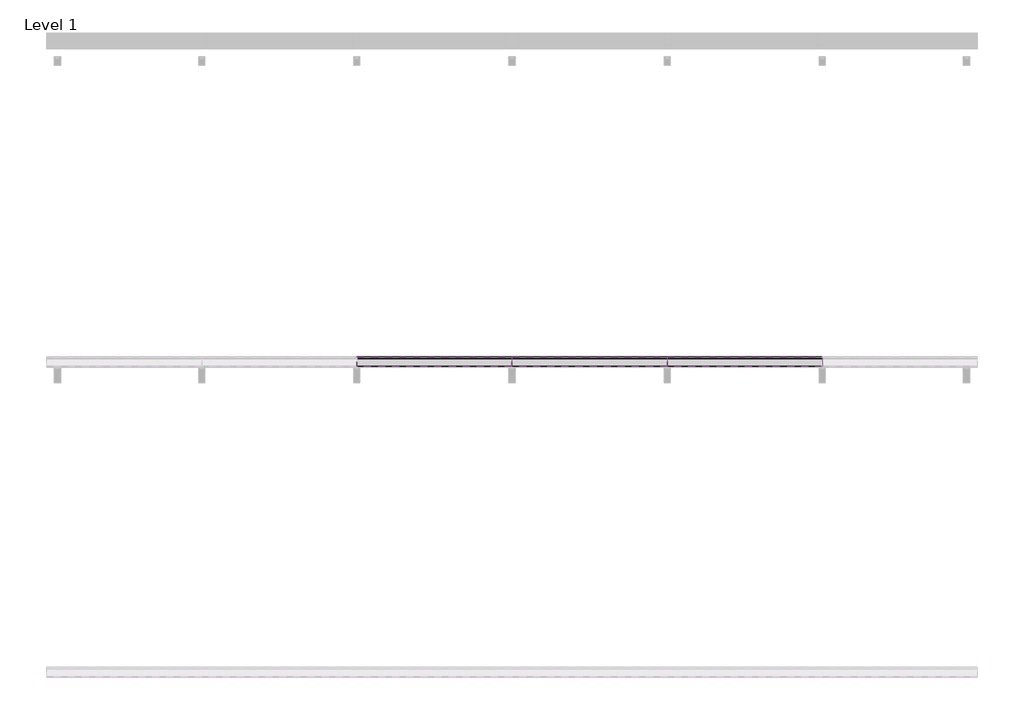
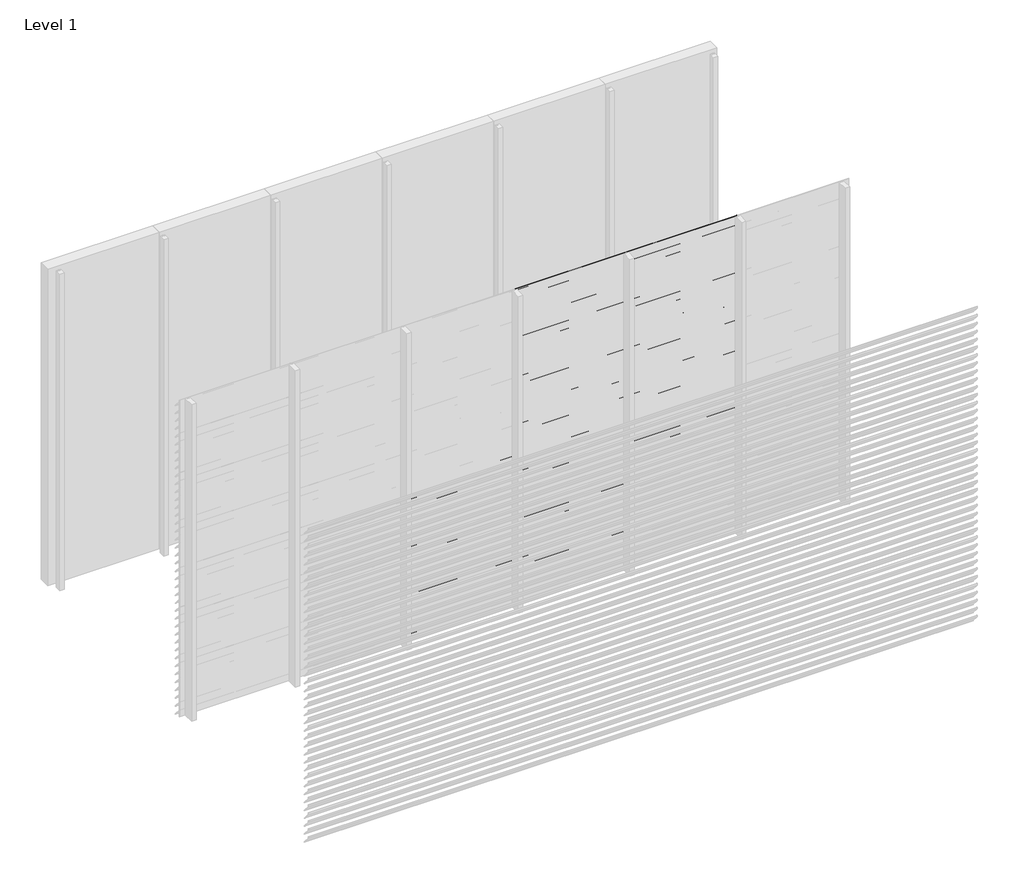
# One storey, part 15 of 35: 86 proxies.
"""IFC4 building model written with IfcOpenShell, lengths in millimetres."""

import ifcopenshell
import ifcopenshell.guid

model = None  # the IFC model being written
_history = None  # IfcOwnerHistory: only IFC2X3 demands one
_inside = {}  # id of a spatial element -> (the spatial element, [elements in it])
_under = {}  # id of a project, library or spatial element -> (it, [spatial elements below it])
_declared = {}  # id of a project -> (the project, [libraries it declares])
_typed = {}  # id of a type object -> (the type object, [elements of that type])
_made_of = {}  # id of a material, layer set ... -> (it, [elements and type objects made of it])


def new_model(schema):
    """Start an empty IFC model of exactly this schema.

    Asked for "IFC4X3", IfcOpenShell would pick the latest addendum, in which some entities
    have other attributes; the version numbers below select the first issue.
    IFC2X3 requires an IfcOwnerHistory on every rooted entity: one is made here for all.
    """
    global model, _history
    if schema == "IFC4X3":
        model = ifcopenshell.file(schema_version=(4, 3, 0, 0))
    else:
        model = ifcopenshell.file(schema=schema)
    _inside.clear()
    _under.clear()
    _declared.clear()
    _typed.clear()
    _made_of.clear()
    _history = None
    if model.schema == "IFC2X3":
        org = make("IfcOrganization", Name="unknown")
        user = make(
            "IfcPersonAndOrganization",
            ThePerson=make("IfcPerson", FamilyName="unknown"),
            TheOrganization=org,
        )
        app = make(
            "IfcApplication",
            ApplicationDeveloper=org,
            Version="unknown",
            ApplicationFullName="unknown",
            ApplicationIdentifier="unknown",
        )
        _history = make(
            "IfcOwnerHistory",
            OwningUser=user,
            OwningApplication=app,
            ChangeAction="ADDED",
            CreationDate=0,
        )
    return model


def make(cls, **values):
    """One entity of the class cls with the attributes given. An attribute that is None is left unset."""
    return model.create_entity(
        cls, **{name: value for name, value in values.items() if value is not None}
    )


def rooted(cls, **values):
    """An entity with a GlobalId (a new one), such as an element, a storey or a relation."""
    return make(cls, GlobalId=ifcopenshell.guid.new(), OwnerHistory=_history, **values)


def si_unit(unit_type, name, prefix=None):
    """IfcSIUnit, for example si_unit("LENGTHUNIT", "METRE", prefix="MILLI")."""
    return make("IfcSIUnit", UnitType=unit_type, Prefix=prefix, Name=name)


def assignment(units):
    """IfcUnitAssignment: the units of a project."""
    return None if units is None else make("IfcUnitAssignment", Units=units)


def point(xyz):
    """IfcCartesianPoint."""
    return None if xyz is None else make("IfcCartesianPoint", Coordinates=xyz)


def direction(xyz):
    """IfcDirection."""
    return None if xyz is None else make("IfcDirection", DirectionRatios=xyz)


def frame(location, z_axis=None, x_axis=None):
    """IfcAxis2Placement3D, a coordinate frame: its origin and axes. An axis left out is left unset."""
    return make(
        "IfcAxis2Placement3D",
        Location=point(location),
        Axis=direction(z_axis),
        RefDirection=direction(x_axis),
    )


def origin():
    """The frame at (0, 0, 0) with its axes left unset."""
    return frame((0.0, 0.0, 0.0))


def place(relative_to, where):
    """IfcLocalPlacement: puts the frame where relative to a parent placement (None: the world)."""
    return make(
        "IfcLocalPlacement", PlacementRelTo=relative_to, RelativePlacement=where
    )


def context(
    kind, dimensions, precision=None, world=None, true_north=None, identifier=None
):
    """IfcGeometricRepresentationContext, for example the 3D "Model" context."""
    return make(
        "IfcGeometricRepresentationContext",
        ContextIdentifier=identifier,
        ContextType=kind,
        CoordinateSpaceDimension=dimensions,
        Precision=precision,
        WorldCoordinateSystem=world,
        TrueNorth=true_north,
    )


def project(units=None, contexts=None):
    """IfcProject with its units and contexts."""
    return rooted(
        "IfcProject",
        Name="project",
        RepresentationContexts=contexts,
        UnitsInContext=assignment(units),
    )


def spatial(cls, under=None, at=None, **own):
    """A site, building, storey or space (cls), placed at a placement, below another one or the project."""
    s = rooted(cls, ObjectPlacement=at, **own)
    if under is not None:
        _under.setdefault(under.id(), (under, []))[1].append(s)
    return s


def polyline(points):
    """IfcPolyline through the points."""
    return make("IfcPolyline", Points=[point(p) for p in points])


def outline(outer, holes=None, kind="AREA"):
    """IfcArbitraryClosedProfileDef: a profile drawn as a closed curve; with holes, ...WithVoids."""
    if holes is None:
        return make("IfcArbitraryClosedProfileDef", ProfileType=kind, OuterCurve=outer)
    return make(
        "IfcArbitraryProfileDefWithVoids",
        ProfileType=kind,
        OuterCurve=outer,
        InnerCurves=holes,
    )


def extrude(swept, where, along, depth):
    """IfcExtrudedAreaSolid: the profile swept, set in the frame where, extruded along a direction by depth."""
    return make(
        "IfcExtrudedAreaSolid",
        SweptArea=swept,
        Position=where,
        ExtrudedDirection=direction(along),
        Depth=depth,
    )


def shape(context_of_items, identifier, shape_type, items):
    """IfcShapeRepresentation: the items that make up one representation, for example the "Body"."""
    return make(
        "IfcShapeRepresentation",
        ContextOfItems=context_of_items,
        RepresentationIdentifier=identifier,
        RepresentationType=shape_type,
        Items=items,
    )


def made_of(thing, what):
    """Note that an element or type object is made of a material, layer set ...; save() writes the relation."""
    if what is not None:
        _made_of.setdefault(what.id(), (what, []))[1].append(thing)
    return thing


def element(
    cls,
    number,
    at=None,
    inside=None,
    cuts=None,
    type_object=None,
    material=None,
    context=None,
    identifier="Body",
    shape_type=None,
    held_by="IfcProductDefinitionShape",
    body=None,
    shapes=None,
    **own,
):
    """One element of the class cls, such as IfcWall. Its Tag is "e" and its number.

    at: its placement. inside: the storey or other place that contains it. cuts: it is an
    opening in that element (IfcRelVoidsElement). A single representation is given by context,
    identifier, shape_type and body (its items); several are given by shapes. held_by: the class
    of the entity that holds the representations. save() writes the other relations.
    """
    e = rooted(cls, Tag="e%d" % number, ObjectPlacement=at, **own)
    if body is not None:
        shapes = [shape(context, identifier, shape_type, body)]
    if shapes is not None:
        e.Representation = make(held_by, Representations=shapes)
    if inside is not None:
        _inside.setdefault(inside.id(), (inside, []))[1].append(e)
    if cuts is not None:
        rooted(
            "IfcRelVoidsElement", RelatingBuildingElement=cuts, RelatedOpeningElement=e
        )
    if type_object is not None:
        _typed.setdefault(type_object.id(), (type_object, []))[1].append(e)
    return made_of(e, material)


def aggregate(whole, parts):
    """IfcRelAggregates: a whole, such as a stair, and the parts it consists of."""
    return rooted("IfcRelAggregates", RelatingObject=whole, RelatedObjects=parts)


def save(model, path):
    """Write the relations noted so far, then the file.

    IfcRelAggregates (storeys below a building ...), IfcRelContainedInSpatialStructure (elements
    in a storey), IfcRelDefinesByType, IfcRelAssociatesMaterial and IfcRelDeclares: one each for
    every whole, place, type object, material and project.
    """
    for whole, parts in _under.values():
        aggregate(whole, parts)
    for where, things in _inside.values():
        rooted(
            "IfcRelContainedInSpatialStructure",
            RelatedElements=things,
            RelatingStructure=where,
        )
    for kind, things in _typed.values():
        rooted("IfcRelDefinesByType", RelatedObjects=things, RelatingType=kind)
    for what, things in _made_of.values():
        rooted("IfcRelAssociatesMaterial", RelatedObjects=things, RelatingMaterial=what)
    for by, libraries in _declared.values():
        rooted("IfcRelDeclares", RelatingContext=by, RelatedDefinitions=libraries)
    model.write(path)


model = new_model("IFC4")

# Units and contexts
model_context = context("Model", 3, world=origin())
ifc_project = project(units=[si_unit("LENGTHUNIT", "METRE", prefix="MILLI")], contexts=[model_context])

# Site, building, storey
site = spatial("IfcSite", under=ifc_project)
building = spatial("IfcBuilding", under=site)
storey = spatial("IfcBuildingStorey", under=building, Name="Level 1", Elevation=0.0)

# Proxies
placement = place(None, origin())
element("IfcBuildingElementProxy", 1, Name="Wall Sweeps", at=placement, inside=storey, context=model_context, shape_type="SweptSolid", body=[
    extrude(outline(polyline([(-35996.5, 1425.0), (-35996.5, 1410.5463701), (-35934.5, 1338.9330051), (-35934.5, 1335.4), (-35936.0, 1335.4), (-35936.0, 1338.3738975), (-35998.0, 1409.9872626), (-35998.0, 1425.0), (-35996.5, 1425.0)])), frame((2000.0, 0.0, 0.0), z_axis=(1.0, 0.0, 0.0), x_axis=(0.0, 1.0, 0.0)), (0.0, 0.0, 1.0), 1000.0),
])
element("IfcBuildingElementProxy", 2, Name="Wall Sweeps", at=placement, inside=storey, context=model_context, shape_type="SweptSolid", body=[
    extrude(outline(polyline([(-35996.5, 1350.0), (-35996.5, 1335.5463701), (-35934.5, 1263.9330051), (-35934.5, 1260.4), (-35936.0, 1260.4), (-35936.0, 1263.3738975), (-35998.0, 1334.9872626), (-35998.0, 1350.0), (-35996.5, 1350.0)])), frame((2000.0, 0.0, 0.0), z_axis=(1.0, 0.0, 0.0), x_axis=(0.0, 1.0, 0.0)), (0.0, 0.0, 1.0), 1000.0),
])
element("IfcBuildingElementProxy", 3, Name="Wall Sweeps", at=placement, inside=storey, context=model_context, shape_type="SweptSolid", body=[
    extrude(outline(polyline([(-35996.5, 1275.0), (-35996.5, 1260.5463701), (-35934.5, 1188.9330051), (-35934.5, 1185.4), (-35936.0, 1185.4), (-35936.0, 1188.3738975), (-35998.0, 1259.9872626), (-35998.0, 1275.0), (-35996.5, 1275.0)])), frame((2000.0, 0.0, 0.0), z_axis=(1.0, 0.0, 0.0), x_axis=(0.0, 1.0, 0.0)), (0.0, 0.0, 1.0), 1000.0),
])
element("IfcBuildingElementProxy", 4, Name="Wall Sweeps", at=placement, inside=storey, context=model_context, shape_type="SweptSolid", body=[
    extrude(outline(polyline([(-35996.5, 1200.0), (-35996.5, 1185.5463701), (-35934.5, 1113.9330051), (-35934.5, 1110.4), (-35936.0, 1110.4), (-35936.0, 1113.3738975), (-35998.0, 1184.9872626), (-35998.0, 1200.0), (-35996.5, 1200.0)])), frame((2000.0, 0.0, 0.0), z_axis=(1.0, 0.0, 0.0), x_axis=(0.0, 1.0, 0.0)), (0.0, 0.0, 1.0), 1000.0),
])
element("IfcBuildingElementProxy", 5, Name="Wall Sweeps", at=placement, inside=storey, context=model_context, shape_type="SweptSolid", body=[
    extrude(outline(polyline([(-35996.5, 1125.0), (-35996.5, 1110.5463701), (-35934.5, 1038.9330051), (-35934.5, 1035.4), (-35936.0, 1035.4), (-35936.0, 1038.3738975), (-35998.0, 1109.9872626), (-35998.0, 1125.0), (-35996.5, 1125.0)])), frame((2000.0, 0.0, 0.0), z_axis=(1.0, 0.0, 0.0), x_axis=(0.0, 1.0, 0.0)), (0.0, 0.0, 1.0), 1000.0),
])
element("IfcBuildingElementProxy", 6, Name="Wall Sweeps", at=placement, inside=storey, context=model_context, shape_type="SweptSolid", body=[
    extrude(outline(polyline([(-35996.5, 1050.0), (-35996.5, 1035.5463701), (-35934.5, 963.9330051), (-35934.5, 960.4), (-35936.0, 960.4), (-35936.0, 963.3738975), (-35998.0, 1034.9872626), (-35998.0, 1050.0), (-35996.5, 1050.0)])), frame((2000.0, 0.0, 0.0), z_axis=(1.0, 0.0, 0.0), x_axis=(0.0, 1.0, 0.0)), (0.0, 0.0, 1.0), 1000.0),
])
element("IfcBuildingElementProxy", 7, Name="Wall Sweeps", at=placement, inside=storey, context=model_context, shape_type="SweptSolid", body=[
    extrude(outline(polyline([(-35996.5, 975.0), (-35996.5, 960.5463701), (-35934.5, 888.9330051), (-35934.5, 885.4), (-35936.0, 885.4), (-35936.0, 888.3738975), (-35998.0, 959.9872626), (-35998.0, 975.0), (-35996.5, 975.0)])), frame((2000.0, 0.0, 0.0), z_axis=(1.0, 0.0, 0.0), x_axis=(0.0, 1.0, 0.0)), (0.0, 0.0, 1.0), 1000.0),
])
element("IfcBuildingElementProxy", 8, Name="Wall Sweeps", at=placement, inside=storey, context=model_context, shape_type="SweptSolid", body=[
    extrude(outline(polyline([(-35996.5, 900.0), (-35996.5, 885.5463701), (-35934.5, 813.9330051), (-35934.5, 810.4), (-35936.0, 810.4), (-35936.0, 813.3738975), (-35998.0, 884.9872626), (-35998.0, 900.0), (-35996.5, 900.0)])), frame((2000.0, 0.0, 0.0), z_axis=(1.0, 0.0, 0.0), x_axis=(0.0, 1.0, 0.0)), (0.0, 0.0, 1.0), 1000.0),
])
element("IfcBuildingElementProxy", 9, Name="Wall Sweeps", at=placement, inside=storey, context=model_context, shape_type="SweptSolid", body=[
    extrude(outline(polyline([(-35996.5, 825.0), (-35996.5, 810.5463701), (-35934.5, 738.9330051), (-35934.5, 735.4), (-35936.0, 735.4), (-35936.0, 738.3738975), (-35998.0, 809.9872626), (-35998.0, 825.0), (-35996.5, 825.0)])), frame((2000.0, 0.0, 0.0), z_axis=(1.0, 0.0, 0.0), x_axis=(0.0, 1.0, 0.0)), (0.0, 0.0, 1.0), 1000.0),
])
element("IfcBuildingElementProxy", 10, Name="Wall Sweeps", at=placement, inside=storey, context=model_context, shape_type="SweptSolid", body=[
    extrude(outline(polyline([(-35996.5, 750.0), (-35996.5, 735.5463701), (-35934.5, 663.9330051), (-35934.5, 660.4), (-35936.0, 660.4), (-35936.0, 663.3738975), (-35998.0, 734.9872626), (-35998.0, 750.0), (-35996.5, 750.0)])), frame((2000.0, 0.0, 0.0), z_axis=(1.0, 0.0, 0.0), x_axis=(0.0, 1.0, 0.0)), (0.0, 0.0, 1.0), 1000.0),
])
element("IfcBuildingElementProxy", 11, Name="Wall Sweeps", at=placement, inside=storey, context=model_context, shape_type="SweptSolid", body=[
    extrude(outline(polyline([(-35996.5, 675.0), (-35996.5, 660.5463701), (-35934.5, 588.9330051), (-35934.5, 585.4), (-35936.0, 585.4), (-35936.0, 588.3738975), (-35998.0, 659.9872626), (-35998.0, 675.0), (-35996.5, 675.0)])), frame((2000.0, 0.0, 0.0), z_axis=(1.0, 0.0, 0.0), x_axis=(0.0, 1.0, 0.0)), (0.0, 0.0, 1.0), 1000.0),
])
element("IfcBuildingElementProxy", 12, Name="Wall Sweeps", at=placement, inside=storey, context=model_context, shape_type="SweptSolid", body=[
    extrude(outline(polyline([(-35996.5, 600.0), (-35996.5, 585.5463701), (-35934.5, 513.9330051), (-35934.5, 510.4), (-35936.0, 510.4), (-35936.0, 513.3738975), (-35998.0, 584.9872626), (-35998.0, 600.0), (-35996.5, 600.0)])), frame((2000.0, 0.0, 0.0), z_axis=(1.0, 0.0, 0.0), x_axis=(0.0, 1.0, 0.0)), (0.0, 0.0, 1.0), 1000.0),
])
element("IfcBuildingElementProxy", 13, Name="Wall Sweeps", at=placement, inside=storey, context=model_context, shape_type="SweptSolid", body=[
    extrude(outline(polyline([(-35996.5, 525.0), (-35996.5, 510.5463701), (-35934.5, 438.9330051), (-35934.5, 435.4), (-35936.0, 435.4), (-35936.0, 438.3738975), (-35998.0, 509.9872626), (-35998.0, 525.0), (-35996.5, 525.0)])), frame((2000.0, 0.0, 0.0), z_axis=(1.0, 0.0, 0.0), x_axis=(0.0, 1.0, 0.0)), (0.0, 0.0, 1.0), 1000.0),
])
element("IfcBuildingElementProxy", 14, Name="Wall Sweeps", at=placement, inside=storey, context=model_context, shape_type="SweptSolid", body=[
    extrude(outline(polyline([(-35996.5, 450.0), (-35996.5, 435.5463701), (-35934.5, 363.9330051), (-35934.5, 360.4), (-35936.0, 360.4), (-35936.0, 363.3738975), (-35998.0, 434.9872626), (-35998.0, 450.0), (-35996.5, 450.0)])), frame((2000.0, 0.0, 0.0), z_axis=(1.0, 0.0, 0.0), x_axis=(0.0, 1.0, 0.0)), (0.0, 0.0, 1.0), 1000.0),
])
element("IfcBuildingElementProxy", 15, Name="Wall Sweeps", at=placement, inside=storey, context=model_context, shape_type="SweptSolid", body=[
    extrude(outline(polyline([(-35996.5, 375.0), (-35996.5, 360.5463701), (-35934.5, 288.9330051), (-35934.5, 285.4), (-35936.0, 285.4), (-35936.0, 288.3738975), (-35998.0, 359.9872626), (-35998.0, 375.0), (-35996.5, 375.0)])), frame((2000.0, 0.0, 0.0), z_axis=(1.0, 0.0, 0.0), x_axis=(0.0, 1.0, 0.0)), (0.0, 0.0, 1.0), 1000.0),
])
element("IfcBuildingElementProxy", 16, Name="Wall Sweeps", at=placement, inside=storey, context=model_context, shape_type="SweptSolid", body=[
    extrude(outline(polyline([(-35996.5, 300.0), (-35996.5, 285.5463701), (-35934.5, 213.9330051), (-35934.5, 210.4), (-35936.0, 210.4), (-35936.0, 213.3738975), (-35998.0, 284.9872626), (-35998.0, 300.0), (-35996.5, 300.0)])), frame((2000.0, 0.0, 0.0), z_axis=(1.0, 0.0, 0.0), x_axis=(0.0, 1.0, 0.0)), (0.0, 0.0, 1.0), 1000.0),
])
element("IfcBuildingElementProxy", 17, Name="Wall Sweeps", at=placement, inside=storey, context=model_context, shape_type="SweptSolid", body=[
    extrude(outline(polyline([(-35996.5, 225.0), (-35996.5, 210.5463701), (-35934.5, 138.9330051), (-35934.5, 135.4), (-35936.0, 135.4), (-35936.0, 138.3738975), (-35998.0, 209.9872626), (-35998.0, 225.0), (-35996.5, 225.0)])), frame((2000.0, 0.0, 0.0), z_axis=(1.0, 0.0, 0.0), x_axis=(0.0, 1.0, 0.0)), (0.0, 0.0, 1.0), 1000.0),
])
element("IfcBuildingElementProxy", 18, Name="Wall Sweeps", at=placement, inside=storey, context=model_context, shape_type="SweptSolid", body=[
    extrude(outline(polyline([(-35996.5, 150.0), (-35996.5, 135.5463701), (-35934.5, 63.9330051), (-35934.5, 60.4), (-35936.0, 60.4), (-35936.0, 63.3738975), (-35998.0, 134.9872626), (-35998.0, 150.0), (-35996.5, 150.0)])), frame((2000.0, 0.0, 0.0), z_axis=(1.0, 0.0, 0.0), x_axis=(0.0, 1.0, 0.0)), (0.0, 0.0, 1.0), 1000.0),
])
element("IfcBuildingElementProxy", 19, Name="Wall Sweeps", at=placement, inside=storey, context=model_context, shape_type="SweptSolid", body=[
    extrude(outline(polyline([(-35996.5, 75.0), (-35996.5, 60.5463701), (-35934.5, -11.0669949), (-35934.5, -14.6), (-35936.0, -14.6), (-35936.0, -11.6261025), (-35998.0, 59.9872626), (-35998.0, 75.0), (-35996.5, 75.0)])), frame((2000.0, 0.0, 0.0), z_axis=(1.0, 0.0, 0.0), x_axis=(0.0, 1.0, 0.0)), (0.0, 0.0, 1.0), 1000.0),
])
element("IfcBuildingElementProxy", 20, Name="Wall Sweeps", at=placement, inside=storey, context=model_context, shape_type="SweptSolid", body=[
    extrude(outline(polyline([(-35996.5, 3000.0), (-35996.5, 2985.5463701), (-35934.5, 2913.9330051), (-35934.5, 2910.4), (-35936.0, 2910.4), (-35936.0, 2913.3738975), (-35998.0, 2984.9872626), (-35998.0, 3000.0), (-35996.5, 3000.0)])), frame((3000.0, 0.0, 0.0), z_axis=(1.0, 0.0, 0.0), x_axis=(0.0, 1.0, 0.0)), (0.0, 0.0, 1.0), 1000.0),
])
element("IfcBuildingElementProxy", 21, Name="Wall Sweeps", at=placement, inside=storey, context=model_context, shape_type="SweptSolid", body=[
    extrude(outline(polyline([(-35996.5, 2925.0), (-35996.5, 2910.5463701), (-35934.5, 2838.9330051), (-35934.5, 2835.4), (-35936.0, 2835.4), (-35936.0, 2838.3738975), (-35998.0, 2909.9872626), (-35998.0, 2925.0), (-35996.5, 2925.0)])), frame((3000.0, 0.0, 0.0), z_axis=(1.0, 0.0, 0.0), x_axis=(0.0, 1.0, 0.0)), (0.0, 0.0, 1.0), 1000.0),
])
element("IfcBuildingElementProxy", 22, Name="Wall Sweeps", at=placement, inside=storey, context=model_context, shape_type="SweptSolid", body=[
    extrude(outline(polyline([(-35996.5, 2850.0), (-35996.5, 2835.5463701), (-35934.5, 2763.9330051), (-35934.5, 2760.4), (-35936.0, 2760.4), (-35936.0, 2763.3738975), (-35998.0, 2834.9872626), (-35998.0, 2850.0), (-35996.5, 2850.0)])), frame((3000.0, 0.0, 0.0), z_axis=(1.0, 0.0, 0.0), x_axis=(0.0, 1.0, 0.0)), (0.0, 0.0, 1.0), 1000.0),
])
element("IfcBuildingElementProxy", 23, Name="Wall Sweeps", at=placement, inside=storey, context=model_context, shape_type="SweptSolid", body=[
    extrude(outline(polyline([(-35996.5, 2775.0), (-35996.5, 2760.5463701), (-35934.5, 2688.9330051), (-35934.5, 2685.4), (-35936.0, 2685.4), (-35936.0, 2688.3738975), (-35998.0, 2759.9872626), (-35998.0, 2775.0), (-35996.5, 2775.0)])), frame((3000.0, 0.0, 0.0), z_axis=(1.0, 0.0, 0.0), x_axis=(0.0, 1.0, 0.0)), (0.0, 0.0, 1.0), 1000.0),
])
element("IfcBuildingElementProxy", 24, Name="Wall Sweeps", at=placement, inside=storey, context=model_context, shape_type="SweptSolid", body=[
    extrude(outline(polyline([(-35996.5, 2700.0), (-35996.5, 2685.5463701), (-35934.5, 2613.9330051), (-35934.5, 2610.4), (-35936.0, 2610.4), (-35936.0, 2613.3738975), (-35998.0, 2684.9872626), (-35998.0, 2700.0), (-35996.5, 2700.0)])), frame((3000.0, 0.0, 0.0), z_axis=(1.0, 0.0, 0.0), x_axis=(0.0, 1.0, 0.0)), (0.0, 0.0, 1.0), 1000.0),
])
element("IfcBuildingElementProxy", 25, Name="Wall Sweeps", at=placement, inside=storey, context=model_context, shape_type="SweptSolid", body=[
    extrude(outline(polyline([(-35996.5, 2625.0), (-35996.5, 2610.5463701), (-35934.5, 2538.9330051), (-35934.5, 2535.4), (-35936.0, 2535.4), (-35936.0, 2538.3738975), (-35998.0, 2609.9872626), (-35998.0, 2625.0), (-35996.5, 2625.0)])), frame((3000.0, 0.0, 0.0), z_axis=(1.0, 0.0, 0.0), x_axis=(0.0, 1.0, 0.0)), (0.0, 0.0, 1.0), 1000.0),
])
element("IfcBuildingElementProxy", 26, Name="Wall Sweeps", at=placement, inside=storey, context=model_context, shape_type="SweptSolid", body=[
    extrude(outline(polyline([(-35996.5, 2550.0), (-35996.5, 2535.5463701), (-35934.5, 2463.9330051), (-35934.5, 2460.4), (-35936.0, 2460.4), (-35936.0, 2463.3738975), (-35998.0, 2534.9872626), (-35998.0, 2550.0), (-35996.5, 2550.0)])), frame((3000.0, 0.0, 0.0), z_axis=(1.0, 0.0, 0.0), x_axis=(0.0, 1.0, 0.0)), (0.0, 0.0, 1.0), 1000.0),
])
element("IfcBuildingElementProxy", 27, Name="Wall Sweeps", at=placement, inside=storey, context=model_context, shape_type="SweptSolid", body=[
    extrude(outline(polyline([(-35996.5, 2475.0), (-35996.5, 2460.5463701), (-35934.5, 2388.9330051), (-35934.5, 2385.4), (-35936.0, 2385.4), (-35936.0, 2388.3738975), (-35998.0, 2459.9872626), (-35998.0, 2475.0), (-35996.5, 2475.0)])), frame((3000.0, 0.0, 0.0), z_axis=(1.0, 0.0, 0.0), x_axis=(0.0, 1.0, 0.0)), (0.0, 0.0, 1.0), 1000.0),
])
element("IfcBuildingElementProxy", 28, Name="Wall Sweeps", at=placement, inside=storey, context=model_context, shape_type="SweptSolid", body=[
    extrude(outline(polyline([(-35996.5, 2400.0), (-35996.5, 2385.5463701), (-35934.5, 2313.9330051), (-35934.5, 2310.4), (-35936.0, 2310.4), (-35936.0, 2313.3738975), (-35998.0, 2384.9872626), (-35998.0, 2400.0), (-35996.5, 2400.0)])), frame((3000.0, 0.0, 0.0), z_axis=(1.0, 0.0, 0.0), x_axis=(0.0, 1.0, 0.0)), (0.0, 0.0, 1.0), 1000.0),
])
element("IfcBuildingElementProxy", 29, Name="Wall Sweeps", at=placement, inside=storey, context=model_context, shape_type="SweptSolid", body=[
    extrude(outline(polyline([(-35996.5, 2325.0), (-35996.5, 2310.5463701), (-35934.5, 2238.9330051), (-35934.5, 2235.4), (-35936.0, 2235.4), (-35936.0, 2238.3738975), (-35998.0, 2309.9872626), (-35998.0, 2325.0), (-35996.5, 2325.0)])), frame((3000.0, 0.0, 0.0), z_axis=(1.0, 0.0, 0.0), x_axis=(0.0, 1.0, 0.0)), (0.0, 0.0, 1.0), 1000.0),
])
element("IfcBuildingElementProxy", 30, Name="Wall Sweeps", at=placement, inside=storey, context=model_context, shape_type="SweptSolid", body=[
    extrude(outline(polyline([(-35996.5, 2250.0), (-35996.5, 2235.5463701), (-35934.5, 2163.9330051), (-35934.5, 2160.4), (-35936.0, 2160.4), (-35936.0, 2163.3738975), (-35998.0, 2234.9872626), (-35998.0, 2250.0), (-35996.5, 2250.0)])), frame((3000.0, 0.0, 0.0), z_axis=(1.0, 0.0, 0.0), x_axis=(0.0, 1.0, 0.0)), (0.0, 0.0, 1.0), 1000.0),
])
element("IfcBuildingElementProxy", 31, Name="Wall Sweeps", at=placement, inside=storey, context=model_context, shape_type="SweptSolid", body=[
    extrude(outline(polyline([(-35996.5, 2175.0), (-35996.5, 2160.5463701), (-35934.5, 2088.9330051), (-35934.5, 2085.4), (-35936.0, 2085.4), (-35936.0, 2088.3738975), (-35998.0, 2159.9872626), (-35998.0, 2175.0), (-35996.5, 2175.0)])), frame((3000.0, 0.0, 0.0), z_axis=(1.0, 0.0, 0.0), x_axis=(0.0, 1.0, 0.0)), (0.0, 0.0, 1.0), 1000.0),
])
element("IfcBuildingElementProxy", 32, Name="Wall Sweeps", at=placement, inside=storey, context=model_context, shape_type="SweptSolid", body=[
    extrude(outline(polyline([(-35996.5, 2100.0), (-35996.5, 2085.5463701), (-35934.5, 2013.9330051), (-35934.5, 2010.4), (-35936.0, 2010.4), (-35936.0, 2013.3738975), (-35998.0, 2084.9872626), (-35998.0, 2100.0), (-35996.5, 2100.0)])), frame((3000.0, 0.0, 0.0), z_axis=(1.0, 0.0, 0.0), x_axis=(0.0, 1.0, 0.0)), (0.0, 0.0, 1.0), 1000.0),
])
element("IfcBuildingElementProxy", 33, Name="Wall Sweeps", at=placement, inside=storey, context=model_context, shape_type="SweptSolid", body=[
    extrude(outline(polyline([(-35996.5, 2025.0), (-35996.5, 2010.5463701), (-35934.5, 1938.9330051), (-35934.5, 1935.4), (-35936.0, 1935.4), (-35936.0, 1938.3738975), (-35998.0, 2009.9872626), (-35998.0, 2025.0), (-35996.5, 2025.0)])), frame((3000.0, 0.0, 0.0), z_axis=(1.0, 0.0, 0.0), x_axis=(0.0, 1.0, 0.0)), (0.0, 0.0, 1.0), 1000.0),
])
element("IfcBuildingElementProxy", 34, Name="Wall Sweeps", at=placement, inside=storey, context=model_context, shape_type="SweptSolid", body=[
    extrude(outline(polyline([(-35996.5, 1950.0), (-35996.5, 1935.5463701), (-35934.5, 1863.9330051), (-35934.5, 1860.4), (-35936.0, 1860.4), (-35936.0, 1863.3738975), (-35998.0, 1934.9872626), (-35998.0, 1950.0), (-35996.5, 1950.0)])), frame((3000.0, 0.0, 0.0), z_axis=(1.0, 0.0, 0.0), x_axis=(0.0, 1.0, 0.0)), (0.0, 0.0, 1.0), 1000.0),
])
element("IfcBuildingElementProxy", 35, Name="Wall Sweeps", at=placement, inside=storey, context=model_context, shape_type="SweptSolid", body=[
    extrude(outline(polyline([(-35996.5, 1875.0), (-35996.5, 1860.5463701), (-35934.5, 1788.9330051), (-35934.5, 1785.4), (-35936.0, 1785.4), (-35936.0, 1788.3738975), (-35998.0, 1859.9872626), (-35998.0, 1875.0), (-35996.5, 1875.0)])), frame((3000.0, 0.0, 0.0), z_axis=(1.0, 0.0, 0.0), x_axis=(0.0, 1.0, 0.0)), (0.0, 0.0, 1.0), 1000.0),
])
element("IfcBuildingElementProxy", 36, Name="Wall Sweeps", at=placement, inside=storey, context=model_context, shape_type="SweptSolid", body=[
    extrude(outline(polyline([(-35996.5, 1800.0), (-35996.5, 1785.5463701), (-35934.5, 1713.9330051), (-35934.5, 1710.4), (-35936.0, 1710.4), (-35936.0, 1713.3738975), (-35998.0, 1784.9872626), (-35998.0, 1800.0), (-35996.5, 1800.0)])), frame((3000.0, 0.0, 0.0), z_axis=(1.0, 0.0, 0.0), x_axis=(0.0, 1.0, 0.0)), (0.0, 0.0, 1.0), 1000.0),
])
element("IfcBuildingElementProxy", 37, Name="Wall Sweeps", at=placement, inside=storey, context=model_context, shape_type="SweptSolid", body=[
    extrude(outline(polyline([(-35996.5, 1725.0), (-35996.5, 1710.5463701), (-35934.5, 1638.9330051), (-35934.5, 1635.4), (-35936.0, 1635.4), (-35936.0, 1638.3738975), (-35998.0, 1709.9872626), (-35998.0, 1725.0), (-35996.5, 1725.0)])), frame((3000.0, 0.0, 0.0), z_axis=(1.0, 0.0, 0.0), x_axis=(0.0, 1.0, 0.0)), (0.0, 0.0, 1.0), 1000.0),
])
element("IfcBuildingElementProxy", 38, Name="Wall Sweeps", at=placement, inside=storey, context=model_context, shape_type="SweptSolid", body=[
    extrude(outline(polyline([(-35996.5, 1650.0), (-35996.5, 1635.5463701), (-35934.5, 1563.9330051), (-35934.5, 1560.4), (-35936.0, 1560.4), (-35936.0, 1563.3738975), (-35998.0, 1634.9872626), (-35998.0, 1650.0), (-35996.5, 1650.0)])), frame((3000.0, 0.0, 0.0), z_axis=(1.0, 0.0, 0.0), x_axis=(0.0, 1.0, 0.0)), (0.0, 0.0, 1.0), 1000.0),
])
element("IfcBuildingElementProxy", 39, Name="Wall Sweeps", at=placement, inside=storey, context=model_context, shape_type="SweptSolid", body=[
    extrude(outline(polyline([(-35996.5, 1575.0), (-35996.5, 1560.5463701), (-35934.5, 1488.9330051), (-35934.5, 1485.4), (-35936.0, 1485.4), (-35936.0, 1488.3738975), (-35998.0, 1559.9872626), (-35998.0, 1575.0), (-35996.5, 1575.0)])), frame((3000.0, 0.0, 0.0), z_axis=(1.0, 0.0, 0.0), x_axis=(0.0, 1.0, 0.0)), (0.0, 0.0, 1.0), 1000.0),
])
element("IfcBuildingElementProxy", 40, Name="Wall Sweeps", at=placement, inside=storey, context=model_context, shape_type="SweptSolid", body=[
    extrude(outline(polyline([(-35996.5, 1500.0), (-35996.5, 1485.5463701), (-35934.5, 1413.9330051), (-35934.5, 1410.4), (-35936.0, 1410.4), (-35936.0, 1413.3738975), (-35998.0, 1484.9872626), (-35998.0, 1500.0), (-35996.5, 1500.0)])), frame((3000.0, 0.0, 0.0), z_axis=(1.0, 0.0, 0.0), x_axis=(0.0, 1.0, 0.0)), (0.0, 0.0, 1.0), 1000.0),
])
element("IfcBuildingElementProxy", 41, Name="Wall Sweeps", at=placement, inside=storey, context=model_context, shape_type="SweptSolid", body=[
    extrude(outline(polyline([(-35996.5, 1425.0), (-35996.5, 1410.5463701), (-35934.5, 1338.9330051), (-35934.5, 1335.4), (-35936.0, 1335.4), (-35936.0, 1338.3738975), (-35998.0, 1409.9872626), (-35998.0, 1425.0), (-35996.5, 1425.0)])), frame((3000.0, 0.0, 0.0), z_axis=(1.0, 0.0, 0.0), x_axis=(0.0, 1.0, 0.0)), (0.0, 0.0, 1.0), 1000.0),
])
element("IfcBuildingElementProxy", 42, Name="Wall Sweeps", at=placement, inside=storey, context=model_context, shape_type="SweptSolid", body=[
    extrude(outline(polyline([(-35996.5, 1350.0), (-35996.5, 1335.5463701), (-35934.5, 1263.9330051), (-35934.5, 1260.4), (-35936.0, 1260.4), (-35936.0, 1263.3738975), (-35998.0, 1334.9872626), (-35998.0, 1350.0), (-35996.5, 1350.0)])), frame((3000.0, 0.0, 0.0), z_axis=(1.0, 0.0, 0.0), x_axis=(0.0, 1.0, 0.0)), (0.0, 0.0, 1.0), 1000.0),
])
element("IfcBuildingElementProxy", 43, Name="Wall Sweeps", at=placement, inside=storey, context=model_context, shape_type="SweptSolid", body=[
    extrude(outline(polyline([(-35996.5, 1275.0), (-35996.5, 1260.5463701), (-35934.5, 1188.9330051), (-35934.5, 1185.4), (-35936.0, 1185.4), (-35936.0, 1188.3738975), (-35998.0, 1259.9872626), (-35998.0, 1275.0), (-35996.5, 1275.0)])), frame((3000.0, 0.0, 0.0), z_axis=(1.0, 0.0, 0.0), x_axis=(0.0, 1.0, 0.0)), (0.0, 0.0, 1.0), 1000.0),
])
element("IfcBuildingElementProxy", 44, Name="Wall Sweeps", at=placement, inside=storey, context=model_context, shape_type="SweptSolid", body=[
    extrude(outline(polyline([(-35996.5, 1200.0), (-35996.5, 1185.5463701), (-35934.5, 1113.9330051), (-35934.5, 1110.4), (-35936.0, 1110.4), (-35936.0, 1113.3738975), (-35998.0, 1184.9872626), (-35998.0, 1200.0), (-35996.5, 1200.0)])), frame((3000.0, 0.0, 0.0), z_axis=(1.0, 0.0, 0.0), x_axis=(0.0, 1.0, 0.0)), (0.0, 0.0, 1.0), 1000.0),
])
element("IfcBuildingElementProxy", 45, Name="Wall Sweeps", at=placement, inside=storey, context=model_context, shape_type="SweptSolid", body=[
    extrude(outline(polyline([(-35996.5, 1125.0), (-35996.5, 1110.5463701), (-35934.5, 1038.9330051), (-35934.5, 1035.4), (-35936.0, 1035.4), (-35936.0, 1038.3738975), (-35998.0, 1109.9872626), (-35998.0, 1125.0), (-35996.5, 1125.0)])), frame((3000.0, 0.0, 0.0), z_axis=(1.0, 0.0, 0.0), x_axis=(0.0, 1.0, 0.0)), (0.0, 0.0, 1.0), 1000.0),
])
element("IfcBuildingElementProxy", 46, Name="Wall Sweeps", at=placement, inside=storey, context=model_context, shape_type="SweptSolid", body=[
    extrude(outline(polyline([(-35996.5, 1050.0), (-35996.5, 1035.5463701), (-35934.5, 963.9330051), (-35934.5, 960.4), (-35936.0, 960.4), (-35936.0, 963.3738975), (-35998.0, 1034.9872626), (-35998.0, 1050.0), (-35996.5, 1050.0)])), frame((3000.0, 0.0, 0.0), z_axis=(1.0, 0.0, 0.0), x_axis=(0.0, 1.0, 0.0)), (0.0, 0.0, 1.0), 1000.0),
])
element("IfcBuildingElementProxy", 47, Name="Wall Sweeps", at=placement, inside=storey, context=model_context, shape_type="SweptSolid", body=[
    extrude(outline(polyline([(-35996.5, 975.0), (-35996.5, 960.5463701), (-35934.5, 888.9330051), (-35934.5, 885.4), (-35936.0, 885.4), (-35936.0, 888.3738975), (-35998.0, 959.9872626), (-35998.0, 975.0), (-35996.5, 975.0)])), frame((3000.0, 0.0, 0.0), z_axis=(1.0, 0.0, 0.0), x_axis=(0.0, 1.0, 0.0)), (0.0, 0.0, 1.0), 1000.0),
])
element("IfcBuildingElementProxy", 48, Name="Wall Sweeps", at=placement, inside=storey, context=model_context, shape_type="SweptSolid", body=[
    extrude(outline(polyline([(-35996.5, 900.0), (-35996.5, 885.5463701), (-35934.5, 813.9330051), (-35934.5, 810.4), (-35936.0, 810.4), (-35936.0, 813.3738975), (-35998.0, 884.9872626), (-35998.0, 900.0), (-35996.5, 900.0)])), frame((3000.0, 0.0, 0.0), z_axis=(1.0, 0.0, 0.0), x_axis=(0.0, 1.0, 0.0)), (0.0, 0.0, 1.0), 1000.0),
])
element("IfcBuildingElementProxy", 49, Name="Wall Sweeps", at=placement, inside=storey, context=model_context, shape_type="SweptSolid", body=[
    extrude(outline(polyline([(-35996.5, 825.0), (-35996.5, 810.5463701), (-35934.5, 738.9330051), (-35934.5, 735.4), (-35936.0, 735.4), (-35936.0, 738.3738975), (-35998.0, 809.9872626), (-35998.0, 825.0), (-35996.5, 825.0)])), frame((3000.0, 0.0, 0.0), z_axis=(1.0, 0.0, 0.0), x_axis=(0.0, 1.0, 0.0)), (0.0, 0.0, 1.0), 1000.0),
])
element("IfcBuildingElementProxy", 50, Name="Wall Sweeps", at=placement, inside=storey, context=model_context, shape_type="SweptSolid", body=[
    extrude(outline(polyline([(-35996.5, 750.0), (-35996.5, 735.5463701), (-35934.5, 663.9330051), (-35934.5, 660.4), (-35936.0, 660.4), (-35936.0, 663.3738975), (-35998.0, 734.9872626), (-35998.0, 750.0), (-35996.5, 750.0)])), frame((3000.0, 0.0, 0.0), z_axis=(1.0, 0.0, 0.0), x_axis=(0.0, 1.0, 0.0)), (0.0, 0.0, 1.0), 1000.0),
])
element("IfcBuildingElementProxy", 51, Name="Wall Sweeps", at=placement, inside=storey, context=model_context, shape_type="SweptSolid", body=[
    extrude(outline(polyline([(-35996.5, 675.0), (-35996.5, 660.5463701), (-35934.5, 588.9330051), (-35934.5, 585.4), (-35936.0, 585.4), (-35936.0, 588.3738975), (-35998.0, 659.9872626), (-35998.0, 675.0), (-35996.5, 675.0)])), frame((3000.0, 0.0, 0.0), z_axis=(1.0, 0.0, 0.0), x_axis=(0.0, 1.0, 0.0)), (0.0, 0.0, 1.0), 1000.0),
])
element("IfcBuildingElementProxy", 52, Name="Wall Sweeps", at=placement, inside=storey, context=model_context, shape_type="SweptSolid", body=[
    extrude(outline(polyline([(-35996.5, 600.0), (-35996.5, 585.5463701), (-35934.5, 513.9330051), (-35934.5, 510.4), (-35936.0, 510.4), (-35936.0, 513.3738975), (-35998.0, 584.9872626), (-35998.0, 600.0), (-35996.5, 600.0)])), frame((3000.0, 0.0, 0.0), z_axis=(1.0, 0.0, 0.0), x_axis=(0.0, 1.0, 0.0)), (0.0, 0.0, 1.0), 1000.0),
])
element("IfcBuildingElementProxy", 53, Name="Wall Sweeps", at=placement, inside=storey, context=model_context, shape_type="SweptSolid", body=[
    extrude(outline(polyline([(-35996.5, 525.0), (-35996.5, 510.5463701), (-35934.5, 438.9330051), (-35934.5, 435.4), (-35936.0, 435.4), (-35936.0, 438.3738975), (-35998.0, 509.9872626), (-35998.0, 525.0), (-35996.5, 525.0)])), frame((3000.0, 0.0, 0.0), z_axis=(1.0, 0.0, 0.0), x_axis=(0.0, 1.0, 0.0)), (0.0, 0.0, 1.0), 1000.0),
])
element("IfcBuildingElementProxy", 54, Name="Wall Sweeps", at=placement, inside=storey, context=model_context, shape_type="SweptSolid", body=[
    extrude(outline(polyline([(-35996.5, 450.0), (-35996.5, 435.5463701), (-35934.5, 363.9330051), (-35934.5, 360.4), (-35936.0, 360.4), (-35936.0, 363.3738975), (-35998.0, 434.9872626), (-35998.0, 450.0), (-35996.5, 450.0)])), frame((3000.0, 0.0, 0.0), z_axis=(1.0, 0.0, 0.0), x_axis=(0.0, 1.0, 0.0)), (0.0, 0.0, 1.0), 1000.0),
])
element("IfcBuildingElementProxy", 55, Name="Wall Sweeps", at=placement, inside=storey, context=model_context, shape_type="SweptSolid", body=[
    extrude(outline(polyline([(-35996.5, 375.0), (-35996.5, 360.5463701), (-35934.5, 288.9330051), (-35934.5, 285.4), (-35936.0, 285.4), (-35936.0, 288.3738975), (-35998.0, 359.9872626), (-35998.0, 375.0), (-35996.5, 375.0)])), frame((3000.0, 0.0, 0.0), z_axis=(1.0, 0.0, 0.0), x_axis=(0.0, 1.0, 0.0)), (0.0, 0.0, 1.0), 1000.0),
])
element("IfcBuildingElementProxy", 56, Name="Wall Sweeps", at=placement, inside=storey, context=model_context, shape_type="SweptSolid", body=[
    extrude(outline(polyline([(-35996.5, 300.0), (-35996.5, 285.5463701), (-35934.5, 213.9330051), (-35934.5, 210.4), (-35936.0, 210.4), (-35936.0, 213.3738975), (-35998.0, 284.9872626), (-35998.0, 300.0), (-35996.5, 300.0)])), frame((3000.0, 0.0, 0.0), z_axis=(1.0, 0.0, 0.0), x_axis=(0.0, 1.0, 0.0)), (0.0, 0.0, 1.0), 1000.0),
])
element("IfcBuildingElementProxy", 57, Name="Wall Sweeps", at=placement, inside=storey, context=model_context, shape_type="SweptSolid", body=[
    extrude(outline(polyline([(-35996.5, 225.0), (-35996.5, 210.5463701), (-35934.5, 138.9330051), (-35934.5, 135.4), (-35936.0, 135.4), (-35936.0, 138.3738975), (-35998.0, 209.9872626), (-35998.0, 225.0), (-35996.5, 225.0)])), frame((3000.0, 0.0, 0.0), z_axis=(1.0, 0.0, 0.0), x_axis=(0.0, 1.0, 0.0)), (0.0, 0.0, 1.0), 1000.0),
])
element("IfcBuildingElementProxy", 58, Name="Wall Sweeps", at=placement, inside=storey, context=model_context, shape_type="SweptSolid", body=[
    extrude(outline(polyline([(-35996.5, 150.0), (-35996.5, 135.5463701), (-35934.5, 63.9330051), (-35934.5, 60.4), (-35936.0, 60.4), (-35936.0, 63.3738975), (-35998.0, 134.9872626), (-35998.0, 150.0), (-35996.5, 150.0)])), frame((3000.0, 0.0, 0.0), z_axis=(1.0, 0.0, 0.0), x_axis=(0.0, 1.0, 0.0)), (0.0, 0.0, 1.0), 1000.0),
])
element("IfcBuildingElementProxy", 59, Name="Wall Sweeps", at=placement, inside=storey, context=model_context, shape_type="SweptSolid", body=[
    extrude(outline(polyline([(-35996.5, 75.0), (-35996.5, 60.5463701), (-35934.5, -11.0669949), (-35934.5, -14.6), (-35936.0, -14.6), (-35936.0, -11.6261025), (-35998.0, 59.9872626), (-35998.0, 75.0), (-35996.5, 75.0)])), frame((3000.0, 0.0, 0.0), z_axis=(1.0, 0.0, 0.0), x_axis=(0.0, 1.0, 0.0)), (0.0, 0.0, 1.0), 1000.0),
])
element("IfcBuildingElementProxy", 60, Name="Wall Sweeps", at=placement, inside=storey, context=model_context, shape_type="SweptSolid", body=[
    extrude(outline(polyline([(-35996.5, 3000.0), (-35996.5, 2985.5463701), (-35934.5, 2913.9330051), (-35934.5, 2910.4), (-35936.0, 2910.4), (-35936.0, 2913.3738975), (-35998.0, 2984.9872626), (-35998.0, 3000.0), (-35996.5, 3000.0)])), frame((4000.0, 0.0, 0.0), z_axis=(1.0, 0.0, 0.0), x_axis=(0.0, 1.0, 0.0)), (0.0, 0.0, 1.0), 1000.0),
])
element("IfcBuildingElementProxy", 61, Name="Wall Sweeps", at=placement, inside=storey, context=model_context, shape_type="SweptSolid", body=[
    extrude(outline(polyline([(-35996.5, 2925.0), (-35996.5, 2910.5463701), (-35934.5, 2838.9330051), (-35934.5, 2835.4), (-35936.0, 2835.4), (-35936.0, 2838.3738975), (-35998.0, 2909.9872626), (-35998.0, 2925.0), (-35996.5, 2925.0)])), frame((4000.0, 0.0, 0.0), z_axis=(1.0, 0.0, 0.0), x_axis=(0.0, 1.0, 0.0)), (0.0, 0.0, 1.0), 1000.0),
])
element("IfcBuildingElementProxy", 62, Name="Wall Sweeps", at=placement, inside=storey, context=model_context, shape_type="SweptSolid", body=[
    extrude(outline(polyline([(-35996.5, 2850.0), (-35996.5, 2835.5463701), (-35934.5, 2763.9330051), (-35934.5, 2760.4), (-35936.0, 2760.4), (-35936.0, 2763.3738975), (-35998.0, 2834.9872626), (-35998.0, 2850.0), (-35996.5, 2850.0)])), frame((4000.0, 0.0, 0.0), z_axis=(1.0, 0.0, 0.0), x_axis=(0.0, 1.0, 0.0)), (0.0, 0.0, 1.0), 1000.0),
])
element("IfcBuildingElementProxy", 63, Name="Wall Sweeps", at=placement, inside=storey, context=model_context, shape_type="SweptSolid", body=[
    extrude(outline(polyline([(-35996.5, 2775.0), (-35996.5, 2760.5463701), (-35934.5, 2688.9330051), (-35934.5, 2685.4), (-35936.0, 2685.4), (-35936.0, 2688.3738975), (-35998.0, 2759.9872626), (-35998.0, 2775.0), (-35996.5, 2775.0)])), frame((4000.0, 0.0, 0.0), z_axis=(1.0, 0.0, 0.0), x_axis=(0.0, 1.0, 0.0)), (0.0, 0.0, 1.0), 1000.0),
])
element("IfcBuildingElementProxy", 64, Name="Wall Sweeps", at=placement, inside=storey, context=model_context, shape_type="SweptSolid", body=[
    extrude(outline(polyline([(-35996.5, 2700.0), (-35996.5, 2685.5463701), (-35934.5, 2613.9330051), (-35934.5, 2610.4), (-35936.0, 2610.4), (-35936.0, 2613.3738975), (-35998.0, 2684.9872626), (-35998.0, 2700.0), (-35996.5, 2700.0)])), frame((4000.0, 0.0, 0.0), z_axis=(1.0, 0.0, 0.0), x_axis=(0.0, 1.0, 0.0)), (0.0, 0.0, 1.0), 1000.0),
])
element("IfcBuildingElementProxy", 65, Name="Wall Sweeps", at=placement, inside=storey, context=model_context, shape_type="SweptSolid", body=[
    extrude(outline(polyline([(-35996.5, 2625.0), (-35996.5, 2610.5463701), (-35934.5, 2538.9330051), (-35934.5, 2535.4), (-35936.0, 2535.4), (-35936.0, 2538.3738975), (-35998.0, 2609.9872626), (-35998.0, 2625.0), (-35996.5, 2625.0)])), frame((4000.0, 0.0, 0.0), z_axis=(1.0, 0.0, 0.0), x_axis=(0.0, 1.0, 0.0)), (0.0, 0.0, 1.0), 1000.0),
])
element("IfcBuildingElementProxy", 66, Name="Wall Sweeps", at=placement, inside=storey, context=model_context, shape_type="SweptSolid", body=[
    extrude(outline(polyline([(-35996.5, 2550.0), (-35996.5, 2535.5463701), (-35934.5, 2463.9330051), (-35934.5, 2460.4), (-35936.0, 2460.4), (-35936.0, 2463.3738975), (-35998.0, 2534.9872626), (-35998.0, 2550.0), (-35996.5, 2550.0)])), frame((4000.0, 0.0, 0.0), z_axis=(1.0, 0.0, 0.0), x_axis=(0.0, 1.0, 0.0)), (0.0, 0.0, 1.0), 1000.0),
])
element("IfcBuildingElementProxy", 67, Name="Wall Sweeps", at=placement, inside=storey, context=model_context, shape_type="SweptSolid", body=[
    extrude(outline(polyline([(-35996.5, 2475.0), (-35996.5, 2460.5463701), (-35934.5, 2388.9330051), (-35934.5, 2385.4), (-35936.0, 2385.4), (-35936.0, 2388.3738975), (-35998.0, 2459.9872626), (-35998.0, 2475.0), (-35996.5, 2475.0)])), frame((4000.0, 0.0, 0.0), z_axis=(1.0, 0.0, 0.0), x_axis=(0.0, 1.0, 0.0)), (0.0, 0.0, 1.0), 1000.0),
])
element("IfcBuildingElementProxy", 68, Name="Wall Sweeps", at=placement, inside=storey, context=model_context, shape_type="SweptSolid", body=[
    extrude(outline(polyline([(-35996.5, 2400.0), (-35996.5, 2385.5463701), (-35934.5, 2313.9330051), (-35934.5, 2310.4), (-35936.0, 2310.4), (-35936.0, 2313.3738975), (-35998.0, 2384.9872626), (-35998.0, 2400.0), (-35996.5, 2400.0)])), frame((4000.0, 0.0, 0.0), z_axis=(1.0, 0.0, 0.0), x_axis=(0.0, 1.0, 0.0)), (0.0, 0.0, 1.0), 1000.0),
])
element("IfcBuildingElementProxy", 69, Name="Wall Sweeps", at=placement, inside=storey, context=model_context, shape_type="SweptSolid", body=[
    extrude(outline(polyline([(-35996.5, 2325.0), (-35996.5, 2310.5463701), (-35934.5, 2238.9330051), (-35934.5, 2235.4), (-35936.0, 2235.4), (-35936.0, 2238.3738975), (-35998.0, 2309.9872626), (-35998.0, 2325.0), (-35996.5, 2325.0)])), frame((4000.0, 0.0, 0.0), z_axis=(1.0, 0.0, 0.0), x_axis=(0.0, 1.0, 0.0)), (0.0, 0.0, 1.0), 1000.0),
])
element("IfcBuildingElementProxy", 70, Name="Wall Sweeps", at=placement, inside=storey, context=model_context, shape_type="SweptSolid", body=[
    extrude(outline(polyline([(-35996.5, 2250.0), (-35996.5, 2235.5463701), (-35934.5, 2163.9330051), (-35934.5, 2160.4), (-35936.0, 2160.4), (-35936.0, 2163.3738975), (-35998.0, 2234.9872626), (-35998.0, 2250.0), (-35996.5, 2250.0)])), frame((4000.0, 0.0, 0.0), z_axis=(1.0, 0.0, 0.0), x_axis=(0.0, 1.0, 0.0)), (0.0, 0.0, 1.0), 1000.0),
])
element("IfcBuildingElementProxy", 71, Name="Wall Sweeps", at=placement, inside=storey, context=model_context, shape_type="SweptSolid", body=[
    extrude(outline(polyline([(-35996.5, 2175.0), (-35996.5, 2160.5463701), (-35934.5, 2088.9330051), (-35934.5, 2085.4), (-35936.0, 2085.4), (-35936.0, 2088.3738975), (-35998.0, 2159.9872626), (-35998.0, 2175.0), (-35996.5, 2175.0)])), frame((4000.0, 0.0, 0.0), z_axis=(1.0, 0.0, 0.0), x_axis=(0.0, 1.0, 0.0)), (0.0, 0.0, 1.0), 1000.0),
])
element("IfcBuildingElementProxy", 72, Name="Wall Sweeps", at=placement, inside=storey, context=model_context, shape_type="SweptSolid", body=[
    extrude(outline(polyline([(-35996.5, 2100.0), (-35996.5, 2085.5463701), (-35934.5, 2013.9330051), (-35934.5, 2010.4), (-35936.0, 2010.4), (-35936.0, 2013.3738975), (-35998.0, 2084.9872626), (-35998.0, 2100.0), (-35996.5, 2100.0)])), frame((4000.0, 0.0, 0.0), z_axis=(1.0, 0.0, 0.0), x_axis=(0.0, 1.0, 0.0)), (0.0, 0.0, 1.0), 1000.0),
])
element("IfcBuildingElementProxy", 73, Name="Wall Sweeps", at=placement, inside=storey, context=model_context, shape_type="SweptSolid", body=[
    extrude(outline(polyline([(-35996.5, 2025.0), (-35996.5, 2010.5463701), (-35934.5, 1938.9330051), (-35934.5, 1935.4), (-35936.0, 1935.4), (-35936.0, 1938.3738975), (-35998.0, 2009.9872626), (-35998.0, 2025.0), (-35996.5, 2025.0)])), frame((4000.0, 0.0, 0.0), z_axis=(1.0, 0.0, 0.0), x_axis=(0.0, 1.0, 0.0)), (0.0, 0.0, 1.0), 1000.0),
])
element("IfcBuildingElementProxy", 74, Name="Wall Sweeps", at=placement, inside=storey, context=model_context, shape_type="SweptSolid", body=[
    extrude(outline(polyline([(-35996.5, 1950.0), (-35996.5, 1935.5463701), (-35934.5, 1863.9330051), (-35934.5, 1860.4), (-35936.0, 1860.4), (-35936.0, 1863.3738975), (-35998.0, 1934.9872626), (-35998.0, 1950.0), (-35996.5, 1950.0)])), frame((4000.0, 0.0, 0.0), z_axis=(1.0, 0.0, 0.0), x_axis=(0.0, 1.0, 0.0)), (0.0, 0.0, 1.0), 1000.0),
])
element("IfcBuildingElementProxy", 75, Name="Wall Sweeps", at=placement, inside=storey, context=model_context, shape_type="SweptSolid", body=[
    extrude(outline(polyline([(-35996.5, 1875.0), (-35996.5, 1860.5463701), (-35934.5, 1788.9330051), (-35934.5, 1785.4), (-35936.0, 1785.4), (-35936.0, 1788.3738975), (-35998.0, 1859.9872626), (-35998.0, 1875.0), (-35996.5, 1875.0)])), frame((4000.0, 0.0, 0.0), z_axis=(1.0, 0.0, 0.0), x_axis=(0.0, 1.0, 0.0)), (0.0, 0.0, 1.0), 1000.0),
])
element("IfcBuildingElementProxy", 76, Name="Wall Sweeps", at=placement, inside=storey, context=model_context, shape_type="SweptSolid", body=[
    extrude(outline(polyline([(-35996.5, 1800.0), (-35996.5, 1785.5463701), (-35934.5, 1713.9330051), (-35934.5, 1710.4), (-35936.0, 1710.4), (-35936.0, 1713.3738975), (-35998.0, 1784.9872626), (-35998.0, 1800.0), (-35996.5, 1800.0)])), frame((4000.0, 0.0, 0.0), z_axis=(1.0, 0.0, 0.0), x_axis=(0.0, 1.0, 0.0)), (0.0, 0.0, 1.0), 1000.0),
])
element("IfcBuildingElementProxy", 77, Name="Wall Sweeps", at=placement, inside=storey, context=model_context, shape_type="SweptSolid", body=[
    extrude(outline(polyline([(-35996.5, 1725.0), (-35996.5, 1710.5463701), (-35934.5, 1638.9330051), (-35934.5, 1635.4), (-35936.0, 1635.4), (-35936.0, 1638.3738975), (-35998.0, 1709.9872626), (-35998.0, 1725.0), (-35996.5, 1725.0)])), frame((4000.0, 0.0, 0.0), z_axis=(1.0, 0.0, 0.0), x_axis=(0.0, 1.0, 0.0)), (0.0, 0.0, 1.0), 1000.0),
])
element("IfcBuildingElementProxy", 78, Name="Wall Sweeps", at=placement, inside=storey, context=model_context, shape_type="SweptSolid", body=[
    extrude(outline(polyline([(-35996.5, 1650.0), (-35996.5, 1635.5463701), (-35934.5, 1563.9330051), (-35934.5, 1560.4), (-35936.0, 1560.4), (-35936.0, 1563.3738975), (-35998.0, 1634.9872626), (-35998.0, 1650.0), (-35996.5, 1650.0)])), frame((4000.0, 0.0, 0.0), z_axis=(1.0, 0.0, 0.0), x_axis=(0.0, 1.0, 0.0)), (0.0, 0.0, 1.0), 1000.0),
])
element("IfcBuildingElementProxy", 79, Name="Wall Sweeps", at=placement, inside=storey, context=model_context, shape_type="SweptSolid", body=[
    extrude(outline(polyline([(-35996.5, 1575.0), (-35996.5, 1560.5463701), (-35934.5, 1488.9330051), (-35934.5, 1485.4), (-35936.0, 1485.4), (-35936.0, 1488.3738975), (-35998.0, 1559.9872626), (-35998.0, 1575.0), (-35996.5, 1575.0)])), frame((4000.0, 0.0, 0.0), z_axis=(1.0, 0.0, 0.0), x_axis=(0.0, 1.0, 0.0)), (0.0, 0.0, 1.0), 1000.0),
])
element("IfcBuildingElementProxy", 80, Name="Wall Sweeps", at=placement, inside=storey, context=model_context, shape_type="SweptSolid", body=[
    extrude(outline(polyline([(-35996.5, 1500.0), (-35996.5, 1485.5463701), (-35934.5, 1413.9330051), (-35934.5, 1410.4), (-35936.0, 1410.4), (-35936.0, 1413.3738975), (-35998.0, 1484.9872626), (-35998.0, 1500.0), (-35996.5, 1500.0)])), frame((4000.0, 0.0, 0.0), z_axis=(1.0, 0.0, 0.0), x_axis=(0.0, 1.0, 0.0)), (0.0, 0.0, 1.0), 1000.0),
])
element("IfcBuildingElementProxy", 81, Name="Wall Sweeps", at=placement, inside=storey, context=model_context, shape_type="SweptSolid", body=[
    extrude(outline(polyline([(-35996.5, 1425.0), (-35996.5, 1410.5463701), (-35934.5, 1338.9330051), (-35934.5, 1335.4), (-35936.0, 1335.4), (-35936.0, 1338.3738975), (-35998.0, 1409.9872626), (-35998.0, 1425.0), (-35996.5, 1425.0)])), frame((4000.0, 0.0, 0.0), z_axis=(1.0, 0.0, 0.0), x_axis=(0.0, 1.0, 0.0)), (0.0, 0.0, 1.0), 1000.0),
])
element("IfcBuildingElementProxy", 82, Name="Wall Sweeps", at=placement, inside=storey, context=model_context, shape_type="SweptSolid", body=[
    extrude(outline(polyline([(-35996.5, 1350.0), (-35996.5, 1335.5463701), (-35934.5, 1263.9330051), (-35934.5, 1260.4), (-35936.0, 1260.4), (-35936.0, 1263.3738975), (-35998.0, 1334.9872626), (-35998.0, 1350.0), (-35996.5, 1350.0)])), frame((4000.0, 0.0, 0.0), z_axis=(1.0, 0.0, 0.0), x_axis=(0.0, 1.0, 0.0)), (0.0, 0.0, 1.0), 1000.0),
])
element("IfcBuildingElementProxy", 83, Name="Wall Sweeps", at=placement, inside=storey, context=model_context, shape_type="SweptSolid", body=[
    extrude(outline(polyline([(-35996.5, 1275.0), (-35996.5, 1260.5463701), (-35934.5, 1188.9330051), (-35934.5, 1185.4), (-35936.0, 1185.4), (-35936.0, 1188.3738975), (-35998.0, 1259.9872626), (-35998.0, 1275.0), (-35996.5, 1275.0)])), frame((4000.0, 0.0, 0.0), z_axis=(1.0, 0.0, 0.0), x_axis=(0.0, 1.0, 0.0)), (0.0, 0.0, 1.0), 1000.0),
])
element("IfcBuildingElementProxy", 84, Name="Wall Sweeps", at=placement, inside=storey, context=model_context, shape_type="SweptSolid", body=[
    extrude(outline(polyline([(-35996.5, 1200.0), (-35996.5, 1185.5463701), (-35934.5, 1113.9330051), (-35934.5, 1110.4), (-35936.0, 1110.4), (-35936.0, 1113.3738975), (-35998.0, 1184.9872626), (-35998.0, 1200.0), (-35996.5, 1200.0)])), frame((4000.0, 0.0, 0.0), z_axis=(1.0, 0.0, 0.0), x_axis=(0.0, 1.0, 0.0)), (0.0, 0.0, 1.0), 1000.0),
])
element("IfcBuildingElementProxy", 85, Name="Wall Sweeps", at=placement, inside=storey, context=model_context, shape_type="SweptSolid", body=[
    extrude(outline(polyline([(-35996.5, 1125.0), (-35996.5, 1110.5463701), (-35934.5, 1038.9330051), (-35934.5, 1035.4), (-35936.0, 1035.4), (-35936.0, 1038.3738975), (-35998.0, 1109.9872626), (-35998.0, 1125.0), (-35996.5, 1125.0)])), frame((4000.0, 0.0, 0.0), z_axis=(1.0, 0.0, 0.0), x_axis=(0.0, 1.0, 0.0)), (0.0, 0.0, 1.0), 1000.0),
])
element("IfcBuildingElementProxy", 86, Name="Wall Sweeps", at=placement, inside=storey, context=model_context, shape_type="SweptSolid", body=[
    extrude(outline(polyline([(-35996.5, 1050.0), (-35996.5, 1035.5463701), (-35934.5, 963.9330051), (-35934.5, 960.4), (-35936.0, 960.4), (-35936.0, 963.3738975), (-35998.0, 1034.9872626), (-35998.0, 1050.0), (-35996.5, 1050.0)])), frame((4000.0, 0.0, 0.0), z_axis=(1.0, 0.0, 0.0), x_axis=(0.0, 1.0, 0.0)), (0.0, 0.0, 1.0), 1000.0),
])

save(model, "model.ifc")
